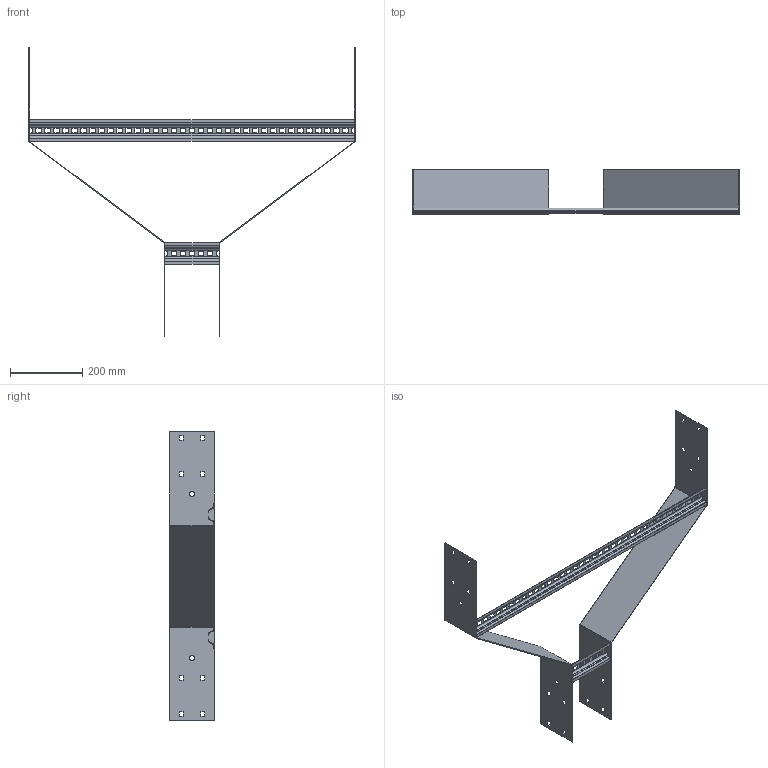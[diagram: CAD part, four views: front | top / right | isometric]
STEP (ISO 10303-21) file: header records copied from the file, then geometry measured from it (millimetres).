
FILE_DESCRIPTION (( 'STEP AP203' ), '1' );
FILE_NAME ('N3 SR 900150.STEP', '2024-08-27T20:30:04', ( '' ), ( '' ), 'SwSTEP 2.0', 'SolidWorks 2023', '' );
FILE_SCHEMA (( 'CONFIG_CONTROL_DESIGN' ));
Length unit declared in the file: millimetre
Products named in the file (4): Ladder Rung_Ladder Rung -  900mm; N3 Reducer side plate_SR150x900; Ladder Rung_Ladder Rung -  150mm; N3 SR 900150
Assembly tree (4 placements, depth 2):
  N3 SR 900150
    N3 Reducer side plate_SR150x900  x2
    Ladder Rung_Ladder Rung -  150mm
    Ladder Rung_Ladder Rung -  900mm
Bounding box: 904 x 124 x 800 mm (x, y, z)
Volume: 596081.8 mm3; surface area: 642522.7 mm2
Topology: 4 solids, 4 shells, 368 faces, 984 edges, 624 vertices
Faces by surface type: plane 336, cylinder 32
Entity records: 10070 total; most frequent: CARTESIAN_POINT 1677, ORIENTED_EDGE 1664, DIRECTION 1514, EDGE_CURVE 832, VECTOR 784, LINE 784, VERTEX_POINT 528, EDGE_LOOP 410
